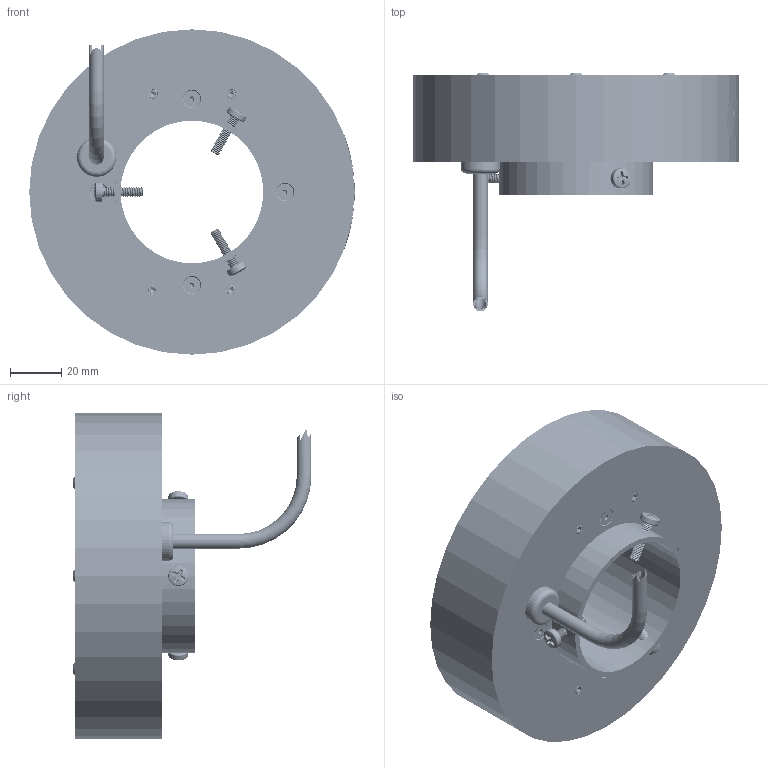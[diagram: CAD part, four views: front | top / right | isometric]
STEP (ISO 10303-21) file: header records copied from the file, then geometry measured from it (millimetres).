
FILE_DESCRIPTION (( 'STEP AP214' ), '1' );
FILE_NAME ('RL3536B_Default.stp', '2021-05-07T17:58:30', ( '' ), ( '' ), 'SwSTEP 2.0', 'SolidWorks 2018', '' );
FILE_SCHEMA (( 'AUTOMOTIVE_DESIGN' ));
Length unit declared in the file: inch
Products named in the file (17): 101-02-002_Default<As Machined>; 092-01-012; 534-914; 1154 (no strap); 092408_TRUNCATED; MF-440X.312; SSS-M4_91390A111; FH-440X5_16; PH-M4x16_Default<As Machined>; RL3536B_Default; 099-01-002; 091053 (RL3536); BH-440X1_4_91239A704; 090154 RL3536_Default<As Machined>; FF-440x.75; ISLW-#4_Default<As Machined>; 099-03-006
Assembly tree (35 placements, depth 2):
  RL3536B_Default
    099-01-002
    FH-440X5_16  x4
    FF-440x.75  x4
    092-01-012
    1154 (no strap)
    ISLW-#4_Default<As Machined>  x3
    534-914
    MF-440X.312  x4
    099-03-006
    090154 RL3536_Default<As Machined>
    101-02-002_Default<As Machined>
    BH-440X1_4_91239A704  x4
    SSS-M4_91390A111  x4
    091053 (RL3536)
    PH-M4x16_Default<As Machined>  x3
    092408_TRUNCATED
Bounding box: 126.54 x 92.84 x 126.49 mm (x, y, z)
Volume: 80800.5 mm3; surface area: 103007.1 mm2
Topology: 43 solids, 43 shells, 2652 faces, 6406 edges, 3883 vertices
Faces by surface type: cylinder 1169, plane 603, cone 598, bspline 211, torus 63, sphere 8
Entity records: 62738 total; most frequent: CARTESIAN_POINT 34040, ORIENTED_EDGE 5540, DIRECTION 4515, EDGE_CURVE 2770, VERTEX_POINT 1743, AXIS2_PLACEMENT_3D 1737, EDGE_LOOP 1219, ADVANCED_FACE 1117
